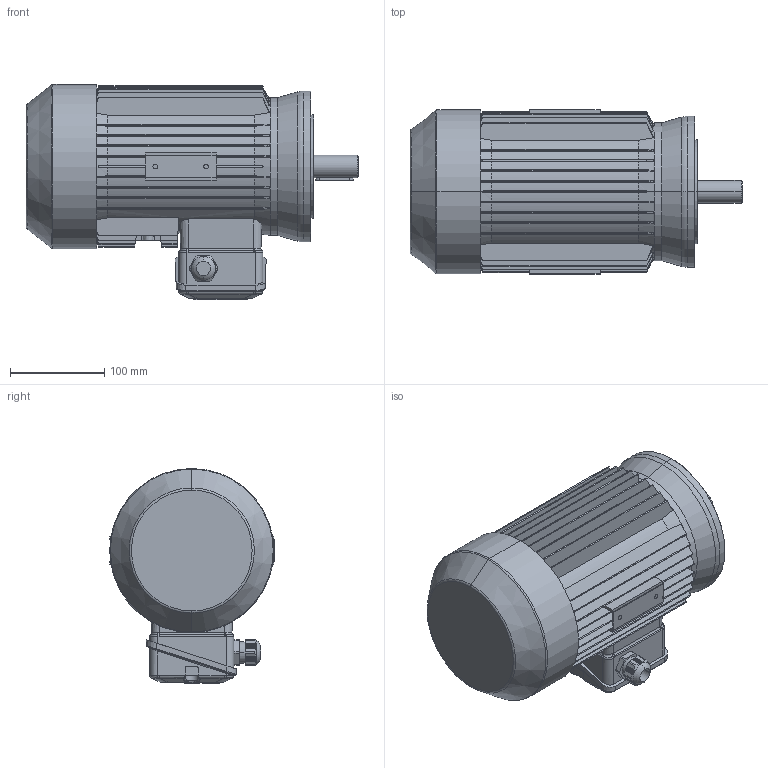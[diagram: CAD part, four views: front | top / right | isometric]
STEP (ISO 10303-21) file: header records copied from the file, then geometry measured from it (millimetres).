
FILE_DESCRIPTION (( 'STEP AP214' ), '1' );
FILE_NAME ('MAP90S2A IM3641-B FT130.STEP', '2022-02-07T14:15:57', ( '' ), ( '' ), 'SwSTEP 2.0', 'SolidWorks 2021', '' );
FILE_SCHEMA (( 'AUTOMOTIVE_DESIGN' ));
Length unit declared in the file: millimetre
Products named in the file (1): MAP90S2A IM3641-B FT130
Bounding box: 352 x 174.5 x 228 mm (x, y, z)
Volume: 6108191.7 mm3; surface area: 601157.8 mm2
Topology: 12 solids, 17 shells, 1062 faces, 2778 edges, 1790 vertices
Faces by surface type: plane 547, cylinder 245, cone 119, bspline 114, torus 35, sphere 2
Entity records: 39350 total; most frequent: CARTESIAN_POINT 14741, ORIENTED_EDGE 5552, DIRECTION 4439, EDGE_CURVE 2776, VERTEX_POINT 1790, AXIS2_PLACEMENT_3D 1492, LINE 1455, VECTOR 1455
